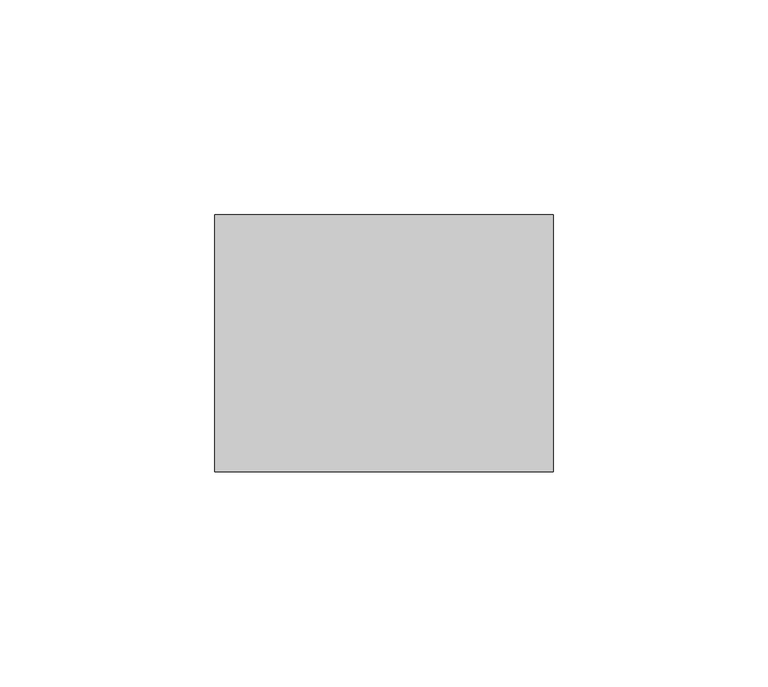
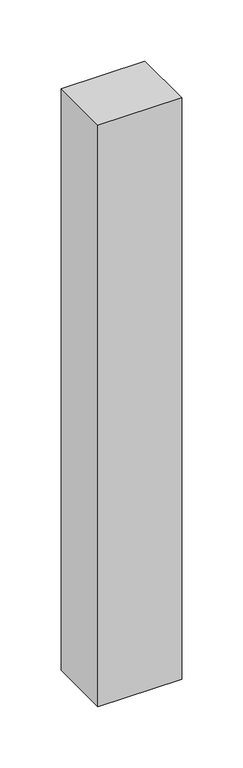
"""IFC4 building model written with IfcOpenShell, lengths in millimetres: plate geometry, Системная панель : Алюкобонд серый."""

from ifc_helpers import new_model, si_unit, origin, origin_with_axes, place, context, project, spatial, polyline, outline, extrude, source, transform, mapped, element, save


def plate_ddd70121(model_context):
    return source(origin(), model_context, "Body", "SweptSolid", [
        extrude(outline(polyline([(39.5, -10.5), (-39.5, -10.5), (-39.5, 49.5), (39.5, 49.5), (39.5, -10.5)])), origin_with_axes(), (0.0, 0.0, 1.0), 580.0),
    ])


if __name__ == "__main__":
    model = new_model("IFC4")
    model_context = context("Model", 3, world=origin())
    ifc_project = project(units=[si_unit("LENGTHUNIT", "METRE", prefix="MILLI")], contexts=[model_context])
    site = spatial("IfcSite", under=ifc_project)
    building = spatial("IfcBuilding", under=site)
    placement = place(None, origin())
    plate_shape = plate_ddd70121(model_context)
    element("IfcPlate", 1, ObjectType="Системная панель : Алюкобонд серый", at=placement, inside=building, context=model_context, shape_type="MappedRepresentation", body=[
        mapped(plate_shape, transform((0.0, 0.0, 0.0), x_axis=(1.0, 0.0, 0.0), y_axis=(0.0, 1.0, 0.0), z_axis=(0.0, 0.0, 1.0))),
    ])
    save(model, "model.ifc")
